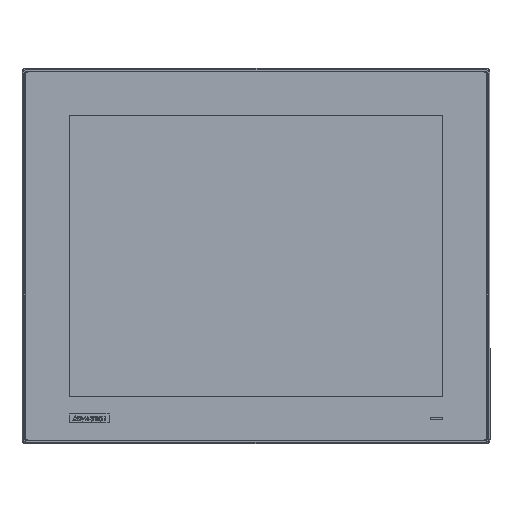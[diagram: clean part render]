
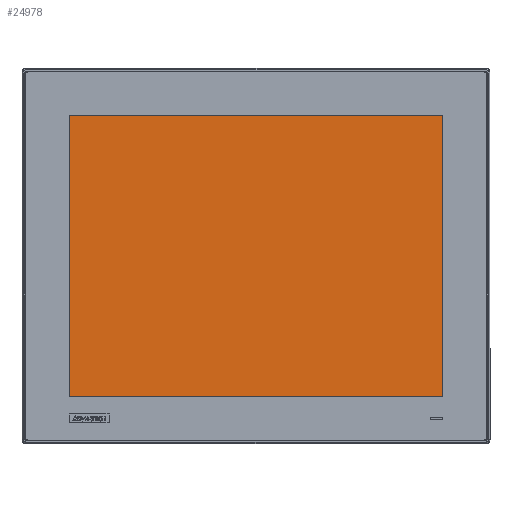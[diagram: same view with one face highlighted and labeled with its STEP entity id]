
A CAD part, top view. The second image highlights one B-rep face of the part: STEP entity #24978.
In plain terms, the highlighted planar face has unit normal (0, 0, 1).
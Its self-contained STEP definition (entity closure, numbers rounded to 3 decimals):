
#4844 = CARTESIAN_POINT ( 'NONE',  ( -153.05, 115.05, 7.2 ) ) ;
#5314 = VERTEX_POINT ( 'NONE', #37416 ) ;
#8366 = EDGE_CURVE ( 'NONE', #96792, #5314, #19837, .T. ) ;
#8802 = ORIENTED_EDGE ( 'NONE', *, *, #8366, .T. ) ;
#14746 = CARTESIAN_POINT ( 'NONE',  ( 153.05, 115.05, 7.2 ) ) ;
#16936 = EDGE_LOOP ( 'NONE', ( #42235, #114732, #20194, #8802 ) ) ;
#18983 = EDGE_CURVE ( 'NONE', #123096, #37431, #35321, .T. ) ;
#19837 = LINE ( 'NONE', #4844, #124483 ) ;
#20194 = ORIENTED_EDGE ( 'NONE', *, *, #108827, .T. ) ;
#21495 = PLANE ( 'NONE',  #128825 ) ;
#22773 = DIRECTION ( 'NONE',  ( 0., -1., 0. ) ) ;
#24922 = DIRECTION ( 'NONE',  ( 0., 1., 0. ) ) ;
#24978 = ADVANCED_FACE ( 'NONE', ( #25631 ), #21495, .T. ) ;
#25631 = FACE_OUTER_BOUND ( 'NONE', #16936, .T. ) ;
#26502 = VECTOR ( 'NONE', #24922, 1000. ) ;
#31701 = DIRECTION ( 'NONE',  ( 1., 0., 0. ) ) ;
#34996 = CARTESIAN_POINT ( 'NONE',  ( 153.05, 115.05, 7.2 ) ) ;
#35321 = LINE ( 'NONE', #53910, #55992 ) ;
#37416 = CARTESIAN_POINT ( 'NONE',  ( -153.05, 115.05, 7.2 ) ) ;
#37431 = VERTEX_POINT ( 'NONE', #120547 ) ;
#42235 = ORIENTED_EDGE ( 'NONE', *, *, #112926, .T. ) ;
#52023 = LINE ( 'NONE', #94217, #129640 ) ;
#53910 = CARTESIAN_POINT ( 'NONE',  ( -153.05, -115.05, 7.2 ) ) ;
#55992 = VECTOR ( 'NONE', #124695, 1000. ) ;
#61890 = CARTESIAN_POINT ( 'NONE',  ( -153.05, -115.05, 7.2 ) ) ;
#72658 = CARTESIAN_POINT ( 'NONE',  ( -153.05, -115.05, 7.2 ) ) ;
#92569 = DIRECTION ( 'NONE',  ( 0., 0., 1. ) ) ;
#94217 = CARTESIAN_POINT ( 'NONE',  ( -153.05, 115.05, 7.2 ) ) ;
#96792 = VERTEX_POINT ( 'NONE', #34996 ) ;
#106557 = DIRECTION ( 'NONE',  ( -1., 0., 0. ) ) ;
#108827 = EDGE_CURVE ( 'NONE', #37431, #96792, #110614, .T. ) ;
#110614 = LINE ( 'NONE', #14746, #26502 ) ;
#112926 = EDGE_CURVE ( 'NONE', #5314, #123096, #52023, .T. ) ;
#114732 = ORIENTED_EDGE ( 'NONE', *, *, #18983, .T. ) ;
#120547 = CARTESIAN_POINT ( 'NONE',  ( 153.05, -115.05, 7.2 ) ) ;
#123096 = VERTEX_POINT ( 'NONE', #72658 ) ;
#124483 = VECTOR ( 'NONE', #106557, 1000. ) ;
#124695 = DIRECTION ( 'NONE',  ( 1., 0., 0. ) ) ;
#128825 = AXIS2_PLACEMENT_3D ( 'NONE', #61890, #92569, #31701 ) ;
#129640 = VECTOR ( 'NONE', #22773, 1000. ) ;
